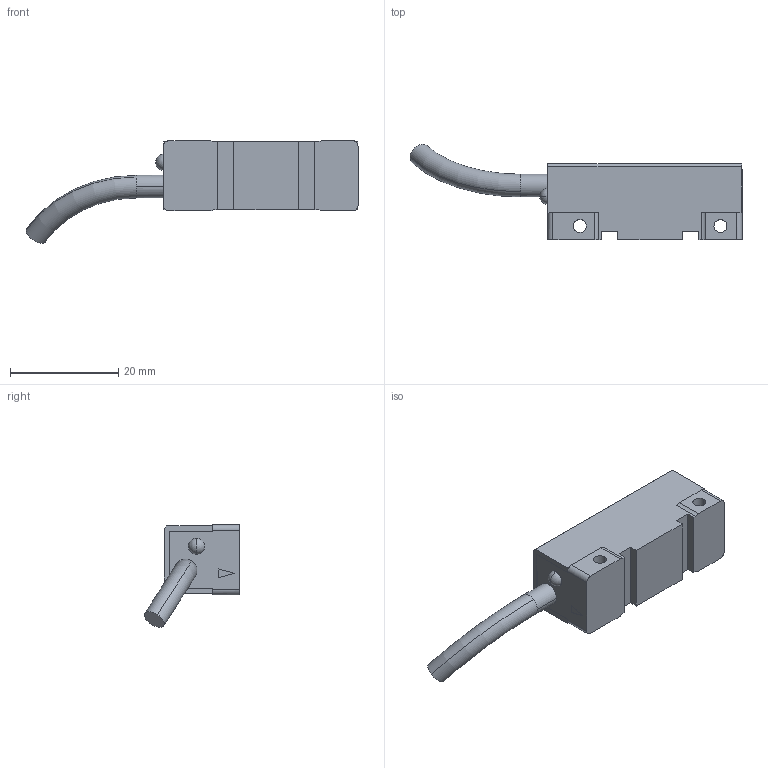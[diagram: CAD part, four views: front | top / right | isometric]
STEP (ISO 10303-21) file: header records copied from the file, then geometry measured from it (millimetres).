
FILE_DESCRIPTION (( 'STEP AP203' ), '1' );
FILE_NAME ('LM13-redhead.STEP', '2009-05-19T12:12:31', ( 'RLS D.O.O.' ), ( 'RLS D.O.O.' ), 'SwSTEP 2.0', 'SolidWorks 2009', '' );
FILE_SCHEMA (( 'CONFIG_CONTROL_DESIGN' ));
Length unit declared in the file: millimetre
Products named in the file (1): LM13-redhead
Bounding box: 61.44 x 17.65 x 18.99 mm (x, y, z)
Volume: 6522.5 mm3; surface area: 2861.6 mm2
Topology: 1 solids, 1 shells, 73 faces, 190 edges, 124 vertices
Faces by surface type: plane 53, cylinder 16, torus 2, sphere 2
Entity records: 2314 total; most frequent: CARTESIAN_POINT 388, DIRECTION 387, ORIENTED_EDGE 380, EDGE_CURVE 190, VECTOR 141, LINE 141, VERTEX_POINT 124, AXIS2_PLACEMENT_3D 123
